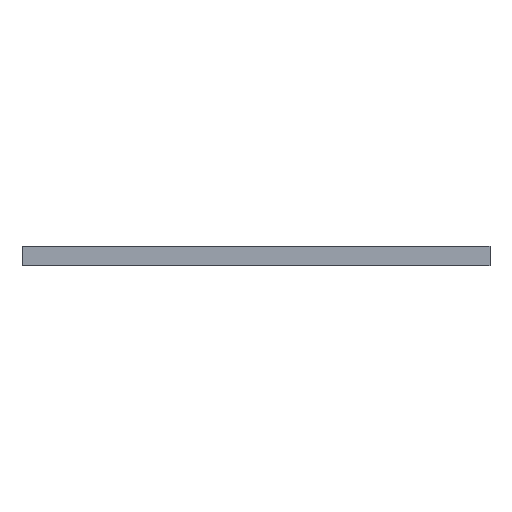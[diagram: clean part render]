
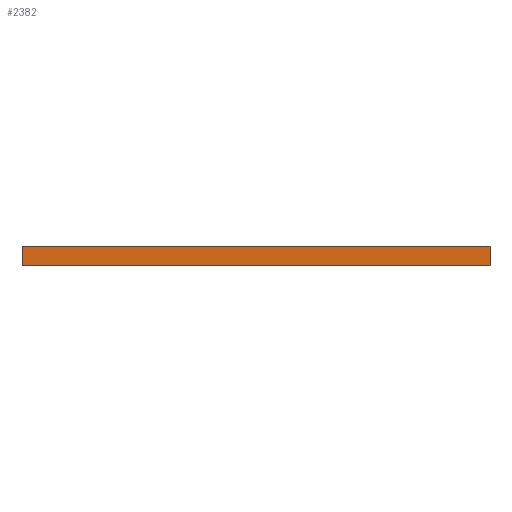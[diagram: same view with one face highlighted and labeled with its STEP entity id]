
A CAD part, front view. The second image highlights one B-rep face of the part: STEP entity #2382.
In plain terms, the highlighted planar face has unit normal (0, -1, 0).
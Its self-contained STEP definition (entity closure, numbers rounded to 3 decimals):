
#15 = VERTEX_POINT ( 'NONE', #9581 ) ;
#313 = CARTESIAN_POINT ( 'NONE',  ( -12., -50., 0. ) ) ;
#596 = VERTEX_POINT ( 'NONE', #12355 ) ;
#614 = DIRECTION ( 'NONE',  ( 0., 0., -1. ) ) ;
#666 = VERTEX_POINT ( 'NONE', #10144 ) ;
#830 = ORIENTED_EDGE ( 'NONE', *, *, #5706, .F. ) ;
#1633 = EDGE_CURVE ( 'NONE', #596, #15, #10302, .T. ) ;
#1979 = AXIS2_PLACEMENT_3D ( 'NONE', #5159, #4925, #8443 ) ;
#2382 = ADVANCED_FACE ( 'NONE', ( #14633 ), #7274, .F. ) ;
#3350 = CARTESIAN_POINT ( 'NONE',  ( 0., -50., 0.5 ) ) ;
#3919 = VERTEX_POINT ( 'NONE', #11636 ) ;
#4384 = CARTESIAN_POINT ( 'NONE',  ( -12., -50., 0.5 ) ) ;
#4925 = DIRECTION ( 'NONE',  ( 0., 1., 0. ) ) ;
#5159 = CARTESIAN_POINT ( 'NONE',  ( -12., -50., 0.5 ) ) ;
#5401 = DIRECTION ( 'NONE',  ( 1., 0., 0. ) ) ;
#5706 = EDGE_CURVE ( 'NONE', #3919, #596, #10100, .T. ) ;
#6867 = DIRECTION ( 'NONE',  ( 0., 0., -1. ) ) ;
#7203 = ORIENTED_EDGE ( 'NONE', *, *, #12231, .T. ) ;
#7274 = PLANE ( 'NONE',  #1979 ) ;
#7357 = LINE ( 'NONE', #313, #11065 ) ;
#7713 = VECTOR ( 'NONE', #6867, 1000. ) ;
#8443 = DIRECTION ( 'NONE',  ( -1., 0., 0. ) ) ;
#8906 = CARTESIAN_POINT ( 'NONE',  ( -12., -50., 0.5 ) ) ;
#9581 = CARTESIAN_POINT ( 'NONE',  ( 0., -50., 0. ) ) ;
#9931 = LINE ( 'NONE', #8906, #13324 ) ;
#10100 = LINE ( 'NONE', #4384, #13760 ) ;
#10144 = CARTESIAN_POINT ( 'NONE',  ( -12., -50., 0. ) ) ;
#10302 = LINE ( 'NONE', #3350, #7713 ) ;
#11065 = VECTOR ( 'NONE', #12128, 1000. ) ;
#11636 = CARTESIAN_POINT ( 'NONE',  ( -12., -50., 0.5 ) ) ;
#12128 = DIRECTION ( 'NONE',  ( 1., 0., 0. ) ) ;
#12231 = EDGE_CURVE ( 'NONE', #666, #15, #7357, .T. ) ;
#12355 = CARTESIAN_POINT ( 'NONE',  ( 0., -50., 0.5 ) ) ;
#12526 = EDGE_CURVE ( 'NONE', #3919, #666, #9931, .T. ) ;
#13324 = VECTOR ( 'NONE', #614, 1000. ) ;
#13760 = VECTOR ( 'NONE', #5401, 1000. ) ;
#14633 = FACE_OUTER_BOUND ( 'NONE', #14691, .T. ) ;
#14691 = EDGE_LOOP ( 'NONE', ( #7203, #14733, #830, #15220 ) ) ;
#14733 = ORIENTED_EDGE ( 'NONE', *, *, #1633, .F. ) ;
#15220 = ORIENTED_EDGE ( 'NONE', *, *, #12526, .T. ) ;
